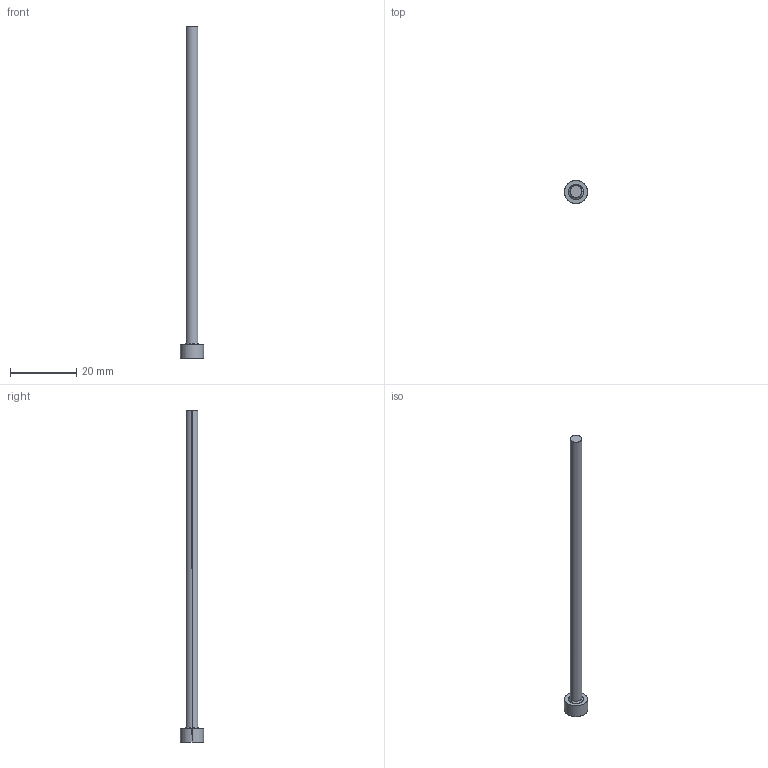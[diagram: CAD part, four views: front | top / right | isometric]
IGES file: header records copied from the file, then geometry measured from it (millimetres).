
Start section: SolidWorks IGES file using analytic representation for surfaces
Global section: file name: D:\Current\W1-2\EPH\EPH3.6-100.igs; native system: SolidWorks 2017; preprocessor: SolidWorks 2017; author: Ravi Kalvai; date: 240411.171022; units: millimetre
Bounding box: 7 x 7 x 100 mm (x, y, z)
Surface area: 1248.4 mm2 (no closed solid volume)
Topology: 0 solids, 0 shells, 9 faces, 152 edges, 152 vertices
Faces by surface type: bspline 5, revolution 4
